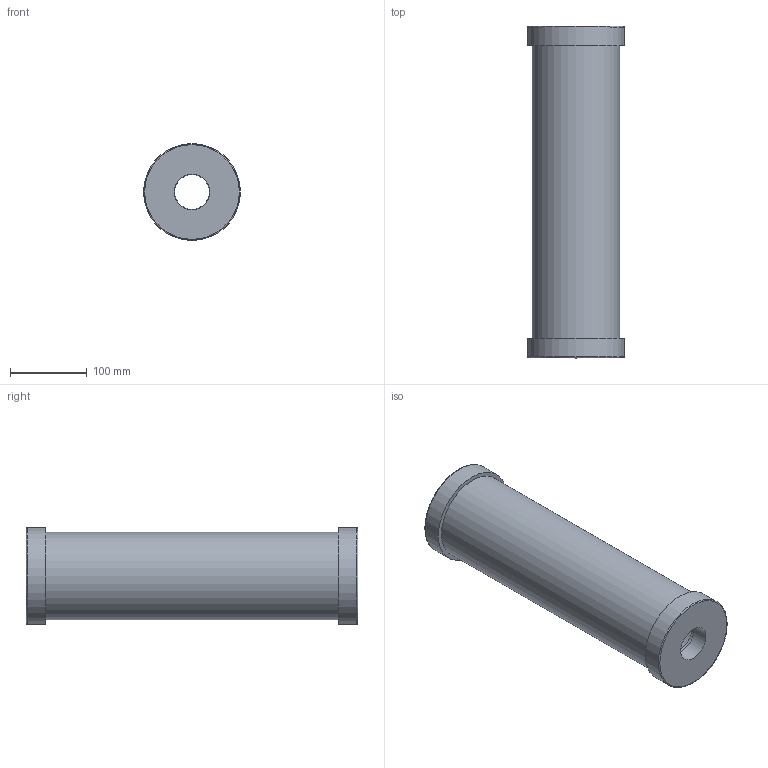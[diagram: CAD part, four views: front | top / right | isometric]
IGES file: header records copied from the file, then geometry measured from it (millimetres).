
Start section: SolidWorks IGES file using analytic representation for surfaces
Global section: file name: F:\Griffco-Valve\Griffco_current-projects\GV_web-files_2015\CAL cylinders\CC3000_P_BSPT.IGS; native system: SolidWorks 2014; preprocessor: SolidWorks 2014; author: Dan; date: 160321.043711; units: inch
Bounding box: 125.73 x 431.8 x 125.73 mm (x, y, z)
Surface area: 323368 mm2 (no closed solid volume)
Topology: 0 solids, 0 shells, 18 faces, 47 edges, 37 vertices
Faces by surface type: revolution 10, bspline 8
